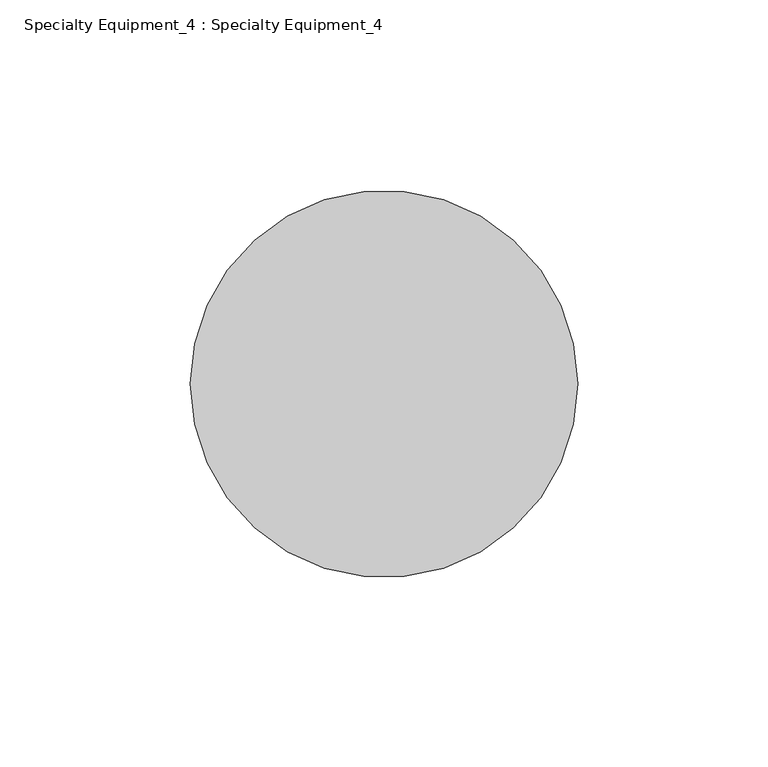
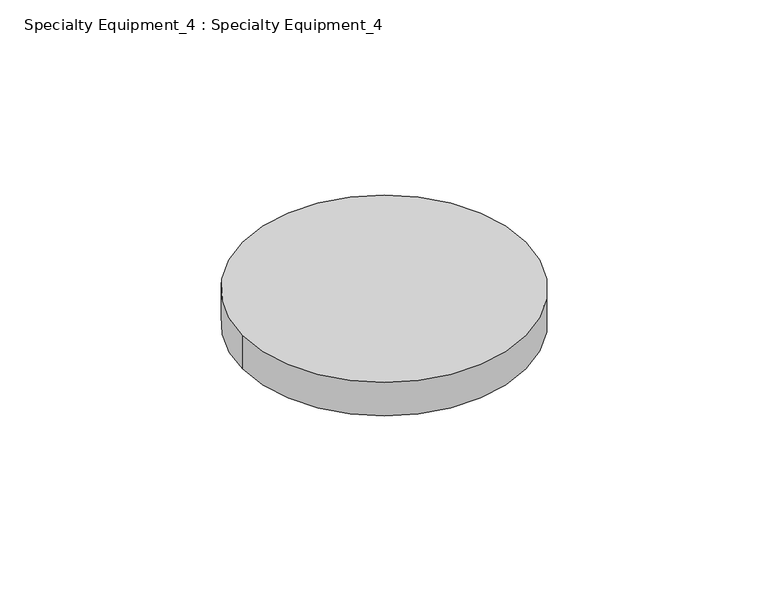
"""IFC4 building model written with IfcOpenShell, lengths in millimetres: proxy geometry, Specialty Equipment_4 : Specialty Equipment_4."""

from ifc_helpers import new_model, si_unit, point, frame, origin, origin_2d, place, context, project, spatial, circle_curve, trimmed, segment, composite_curve, outline, extrude, source, transform, mapped, element, save


def specialty_equipment_4_specialty_equipment_4_565449f1(model_context):
    return source(origin(), model_context, "Body", "SweptSolid", [
        extrude(outline(composite_curve([segment(trimmed(circle_curve(origin_2d(), 50.8), [point((-50.8, 0.0))], [point((50.8, 0.0))], False, "CARTESIAN"), True, "CONTINUOUS"), segment(trimmed(circle_curve(origin_2d(), 50.8), [point((50.8, 0.0))], [point((-50.8, 0.0))], False, "CARTESIAN"), True, "CONTINUOUS")], self_intersect=False)), frame((0.0, 0.0, -12.7), z_axis=(0.0, 0.0, 1.0), x_axis=(1.0, 0.0, 0.0)), (0.0, 0.0, 1.0), 12.7),
    ])


if __name__ == "__main__":
    model = new_model("IFC4")
    model_context = context("Model", 3, world=origin())
    ifc_project = project(units=[si_unit("LENGTHUNIT", "METRE", prefix="MILLI")], contexts=[model_context])
    site = spatial("IfcSite", under=ifc_project)
    building = spatial("IfcBuilding", under=site)
    placement = place(None, origin())
    specialty_equipment_4_specialty_equipment_4_shape = specialty_equipment_4_specialty_equipment_4_565449f1(model_context)
    element("IfcBuildingElementProxy", 1, Name="Specialty Equipment_4 : Specialty Equipment_4", ObjectType="Specialty Equipment_4 : Specialty Equipment_4", at=placement, inside=building, context=model_context, shape_type="MappedRepresentation", body=[
        mapped(specialty_equipment_4_specialty_equipment_4_shape, transform((0.0, 0.0, 0.0), x_axis=(1.0, 0.0, 0.0), y_axis=(0.0, 1.0, 0.0), z_axis=(0.0, 0.0, 1.0))),
    ])
    save(model, "model.ifc")
